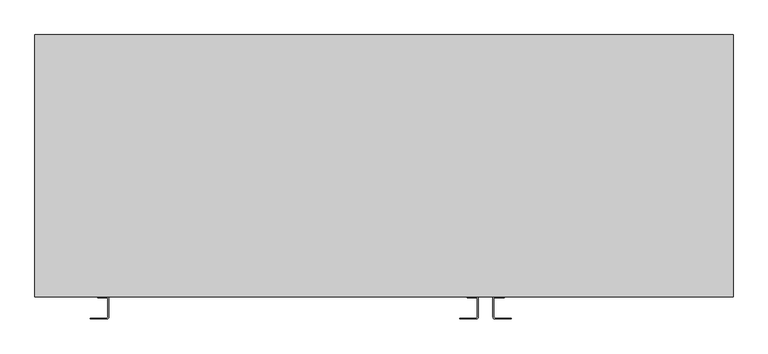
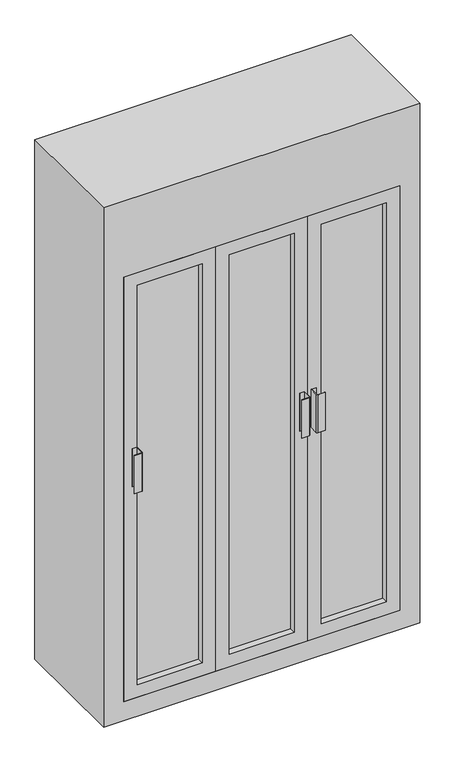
"""IFC4 building model written with IfcOpenShell, lengths in millimetres: furniture geometry, FloralMerchandiser_3-Door-Display_Reed : FloralMerchandiser_3-Door-Display_Reed."""

from ifc_helpers import new_model, si_unit, point, frame, frame_2d, origin, place, context, project, spatial, polyline, circle_curve, trimmed, segment, composite_curve, outline, extrude, faceted_brep, source, transform, mapped, element, save


def furniture_586be2a2(model_context):
    return source(origin(), model_context, "Body", "SolidModel", [
        extrude(outline(polyline([(-678.692729, -50.8), (-1726.292729, -50.8), (-1726.292729, -38.1), (-678.692729, -38.1), (-678.692729, -50.8)])), frame((0.0, 0.0, 76.2), z_axis=(0.0, 0.0, 1.0), x_axis=(1.0, 0.0, 0.0)), (0.0, 0.0, 1.0), 1701.8),
        extrude(outline(polyline([(-678.692729, -50.8), (-678.692729, -250.8), (-1726.292729, -250.8), (-1726.292729, -50.8), (-678.692729, -50.8)])), frame((0.0, 0.0, 630.7666667), z_axis=(0.0, 0.0, 1.0), x_axis=(1.0, 0.0, 0.0)), (0.0, 0.0, 1.0), 25.4),
        extrude(outline(polyline([(-678.692729, -50.8), (-678.692729, -250.8), (-1726.292729, -250.8), (-1726.292729, -50.8), (-678.692729, -50.8)])), frame((0.0, 0.0, 1198.0333333), z_axis=(0.0, 0.0, 1.0), x_axis=(1.0, 0.0, 0.0)), (0.0, 0.0, 1.0), 25.4),
        extrude(outline(polyline([(-977.092729, -263.5), (-729.492729, -263.5), (-729.492729, -276.2), (-977.092729, -276.2), (-977.092729, -263.5)])), frame((0.0, 0.0, 127.0), z_axis=(0.0, 0.0, 1.0), x_axis=(1.0, 0.0, 0.0)), (0.0, 0.0, 1.0), 1600.2),
        extrude(outline(polyline([(76.2, -1027.892729), (76.2, -678.692729), (1778.0, -678.692729), (1778.0, -1027.892729), (76.2, -1027.892729)]), holes=[polyline([(1727.2, -729.492729), (127.0, -729.492729), (127.0, -977.092729), (1727.2, -977.092729), (1727.2, -729.492729)])]), frame((0.0, -301.6, 0.0), z_axis=(0.0, 1.0, 0.0), x_axis=(0.0, 0.0, 1.0)), (0.0, 0.0, 1.0), 50.8),
        extrude(outline(polyline([(-1326.292729, -263.5), (-1078.692729, -263.5), (-1078.692729, -276.2), (-1326.292729, -276.2), (-1326.292729, -263.5)])), frame((0.0, 0.0, 127.0), z_axis=(0.0, 0.0, 1.0), x_axis=(1.0, 0.0, 0.0)), (0.0, 0.0, 1.0), 1600.2),
        extrude(outline(polyline([(1778.0, -1377.092729), (76.2, -1377.092729), (76.2, -1027.892729), (1778.0, -1027.892729), (1778.0, -1377.092729)]), holes=[polyline([(1727.2, -1078.692729), (127.0, -1078.692729), (127.0, -1326.292729), (1727.2, -1326.292729), (1727.2, -1078.692729)])]), frame((0.0, -301.6, 0.0), z_axis=(0.0, 1.0, 0.0), x_axis=(0.0, 0.0, 1.0)), (0.0, 0.0, 1.0), 50.8),
        extrude(outline(polyline([(-1675.492729, -263.5), (-1427.892729, -263.5), (-1427.892729, -276.2), (-1675.492729, -276.2), (-1675.492729, -263.5)])), frame((0.0, 0.0, 127.0), z_axis=(0.0, 0.0, 1.0), x_axis=(1.0, 0.0, 0.0)), (0.0, 0.0, 1.0), 1600.2),
        extrude(outline(polyline([(76.2, -1726.292729), (76.2, -1377.092729), (1778.0, -1377.092729), (1778.0, -1726.292729), (76.2, -1726.292729)]), holes=[polyline([(1727.2, -1427.892729), (127.0, -1427.892729), (127.0, -1675.492729), (1727.2, -1675.492729), (1727.2, -1427.892729)])]), frame((0.0, -301.6, 0.0), z_axis=(0.0, 1.0, 0.0), x_axis=(0.0, 0.0, 1.0)), (0.0, 0.0, 1.0), 50.8),
        faceted_brep([(-602.492729, 149.2, 0.0), (-1802.492729, 149.2, 0.0), (-1802.492729, 149.2, 2082.8), (-602.492729, 149.2, 2082.8), (-602.492729, -301.6, 2082.8), (-1802.492729, -301.6, 2082.8), (-1802.492729, -301.6, 0.0), (-602.492729, -301.6, 0.0), (-678.692729, -301.6, 1778.0), (-678.692729, -301.6, 76.2), (-1726.292729, -301.6, 76.2), (-1726.292729, -301.6, 1778.0), (-1726.292729, 98.4, 1778.0), (-678.692729, 98.4, 1778.0), (-1726.292729, 98.4, 76.2), (-678.692729, 98.4, 76.2)], [[[0, 1, 2, 3]], [[4, 5, 6, 7], [8, 9, 10, 11]], [[4, 7, 0, 3]], [[1, 0, 7, 6]], [[2, 1, 6, 5]], [[3, 2, 5, 4]], [[8, 11, 12, 13]], [[11, 10, 14, 12]], [[10, 9, 15, 14]], [[9, 8, 13, 15]], [[13, 12, 14, 15]]]),
        extrude(outline(composite_curve([segment(polyline([(-1015.192729, -301.6), (-996.142729, -301.6), (-996.142729, -303.1875), (-1013.605229, -303.1875), (-1013.605229, -335.9911195)]), True, "CONTINUOUS"), segment(trimmed(circle_curve(frame_2d((-1011.4838485, -335.9911195)), 2.1213805), [point((-1013.605229, -335.9911195))], [point((-1011.4838485, -338.1125))], True, "CARTESIAN"), True, "CONTINUOUS"), segment(polyline([(-1011.4838485, -338.1125), (-983.442729, -338.1125), (-983.442729, -339.7), (-1011.4838485, -339.7)]), True, "CONTINUOUS"), segment(trimmed(circle_curve(frame_2d((-1011.4838485, -335.9911195)), 3.7088805), [point((-1011.4838485, -339.7))], [point((-1015.192729, -335.9911195))], False, "CARTESIAN"), True, "CONTINUOUS"), segment(polyline([(-1015.192729, -335.9911195), (-1015.192729, -301.6)]), True, "CONTINUOUS")], self_intersect=False)), frame((0.0, 0.0, 927.1), z_axis=(0.0, 0.0, 1.0), x_axis=(1.0, 0.0, 0.0)), (0.0, 0.0, 1.0), 152.4),
        extrude(outline(composite_curve([segment(polyline([(-1675.492729, -301.6), (-1675.492729, -335.9911195)]), True, "CONTINUOUS"), segment(trimmed(circle_curve(frame_2d((-1679.2016095, -335.9911195)), 3.7088805), [point((-1675.492729, -335.9911195))], [point((-1679.2016095, -339.7))], False, "CARTESIAN"), True, "CONTINUOUS"), segment(polyline([(-1679.2016095, -339.7), (-1707.242729, -339.7), (-1707.242729, -338.1125), (-1679.2016095, -338.1125)]), True, "CONTINUOUS"), segment(trimmed(circle_curve(frame_2d((-1679.2016095, -335.9911195)), 2.1213805), [point((-1679.2016095, -338.1125))], [point((-1677.080229, -335.9911195))], True, "CARTESIAN"), True, "CONTINUOUS"), segment(polyline([(-1677.080229, -335.9911195), (-1677.080229, -303.1875), (-1694.542729, -303.1875), (-1694.542729, -301.6), (-1675.492729, -301.6)]), True, "CONTINUOUS")], self_intersect=False)), frame((0.0, 0.0, 927.1), z_axis=(0.0, 0.0, 1.0), x_axis=(1.0, 0.0, 0.0)), (0.0, 0.0, 1.0), 152.4),
        extrude(outline(composite_curve([segment(polyline([(-1040.592729, -301.6), (-1040.592729, -335.9911195)]), True, "CONTINUOUS"), segment(trimmed(circle_curve(frame_2d((-1044.3016095, -335.9911195)), 3.7088805), [point((-1040.592729, -335.9911195))], [point((-1044.3016095, -339.7))], False, "CARTESIAN"), True, "CONTINUOUS"), segment(polyline([(-1044.3016095, -339.7), (-1072.342729, -339.7), (-1072.342729, -338.1125), (-1044.3016095, -338.1125)]), True, "CONTINUOUS"), segment(trimmed(circle_curve(frame_2d((-1044.3016095, -335.9911195)), 2.1213805), [point((-1044.3016095, -338.1125))], [point((-1042.180229, -335.9911195))], True, "CARTESIAN"), True, "CONTINUOUS"), segment(polyline([(-1042.180229, -335.9911195), (-1042.180229, -303.1875), (-1059.642729, -303.1875), (-1059.642729, -301.6), (-1040.592729, -301.6)]), True, "CONTINUOUS")], self_intersect=False)), frame((0.0, 0.0, 927.1), z_axis=(0.0, 0.0, 1.0), x_axis=(1.0, 0.0, 0.0)), (0.0, 0.0, 1.0), 152.4),
    ])


if __name__ == "__main__":
    model = new_model("IFC4")
    model_context = context("Model", 3, world=origin())
    ifc_project = project(units=[si_unit("LENGTHUNIT", "METRE", prefix="MILLI")], contexts=[model_context])
    site = spatial("IfcSite", under=ifc_project)
    building = spatial("IfcBuilding", under=site)
    placement = place(None, origin())
    furniture_shape = furniture_586be2a2(model_context)
    element("IfcFurniture", 1, ObjectType="FloralMerchandiser_3-Door-Display_Reed : FloralMerchandiser_3-Door-Display_Reed", at=placement, inside=building, context=model_context, shape_type="MappedRepresentation", body=[
        mapped(furniture_shape, transform((0.0, 0.0, 0.0), x_axis=(1.0, 0.0, 0.0), y_axis=(0.0, 1.0, 0.0), z_axis=(0.0, 0.0, 1.0))),
    ])
    save(model, "model.ifc")
